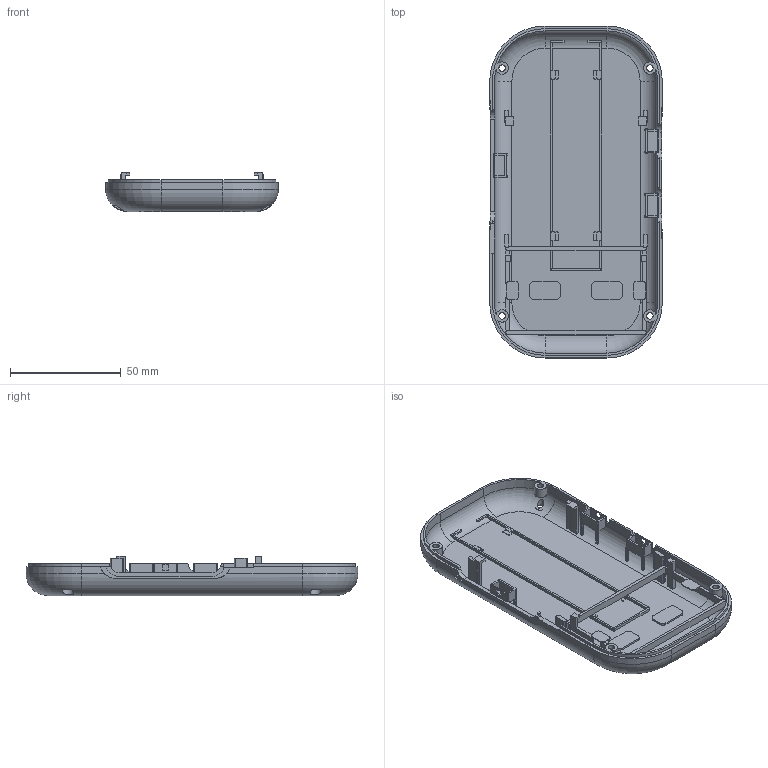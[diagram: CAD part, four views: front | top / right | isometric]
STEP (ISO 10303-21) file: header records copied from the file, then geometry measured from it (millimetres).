
FILE_DESCRIPTION(('Open CASCADE Model'),'2;1');
FILE_NAME('Open CASCADE Shape Model','2026-09-08T12:50:47',('Author'),( 'Open CASCADE'),'Open CASCADE STEP processor 7.7','Open CASCADE 7.7' ,'Unknown');
FILE_SCHEMA(('AUTOMOTIVE_DESIGN { 1 0 10303 214 1 1 1 1 }'));
Length unit declared in the file: millimetre
Products named in the file (1): Open CASCADE STEP translator 7.7 2
Bounding box: 78 x 150 x 17.71 mm (x, y, z)
Volume: 31374.3 mm3; surface area: 35331 mm2
Topology: 1 solids, 1 shells, 1182 faces, 3367 edges, 2232 vertices
Faces by surface type: plane 556, bspline 355, cylinder 256, torus 14, sphere 1
Full cylindrical faces by diameter (mm): 2.9 x8
Entity records: 93634 total; most frequent: CARTESIAN_POINT 32208, DIRECTION 9365, ORIENTED_EDGE 6734, PCURVE 6734, DEFINITIONAL_REPRESENTATION 6734, LINE 6218, VECTOR 6218, EDGE_CURVE 3367
